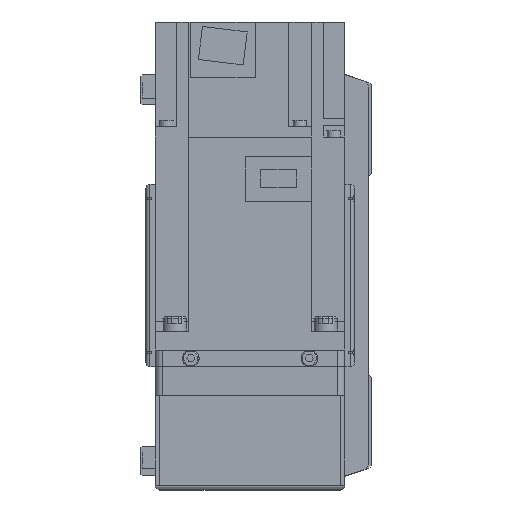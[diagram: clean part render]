
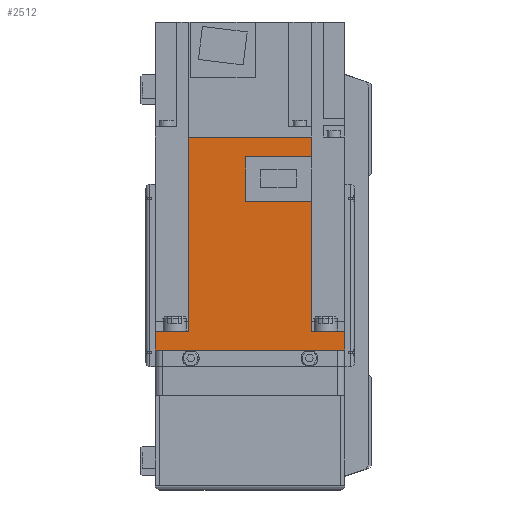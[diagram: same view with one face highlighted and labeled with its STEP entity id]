
A CAD part, left-side view. The second image highlights one B-rep face of the part: STEP entity #2512.
In plain terms, the highlighted planar face has unit normal (-1, 0, 0) as drawn and (1, 0, 0) by its records, which use the part's own axes.
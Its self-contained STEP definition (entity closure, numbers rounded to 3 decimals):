
#2512 = ADVANCED_FACE( '', ( #5575 ), #5576, .F. );
#5575 = FACE_OUTER_BOUND( '', #9131, .T. );
#5576 = PLANE( '', #9132 );
#9131 = EDGE_LOOP( '', ( #16227, #16228, #16229, #16230, #16231, #16232, #16233, #16234, #16235, #16236, #16237, #16238 ) );
#9132 = AXIS2_PLACEMENT_3D( '', #16239, #16240, #16241 );
#16227 = ORIENTED_EDGE( '', *, *, #22859, .F. );
#16228 = ORIENTED_EDGE( '', *, *, #21079, .F. );
#16229 = ORIENTED_EDGE( '', *, *, #22860, .F. );
#16230 = ORIENTED_EDGE( '', *, *, #22861, .T. );
#16231 = ORIENTED_EDGE( '', *, *, #22862, .F. );
#16232 = ORIENTED_EDGE( '', *, *, #21720, .T. );
#16233 = ORIENTED_EDGE( '', *, *, #22863, .T. );
#16234 = ORIENTED_EDGE( '', *, *, #22864, .F. );
#16235 = ORIENTED_EDGE( '', *, *, #20955, .F. );
#16236 = ORIENTED_EDGE( '', *, *, #21081, .F. );
#16237 = ORIENTED_EDGE( '', *, *, #22865, .F. );
#16238 = ORIENTED_EDGE( '', *, *, #21879, .F. );
#16239 = CARTESIAN_POINT( '', ( 40., 89.8, 40. ) );
#16240 = DIRECTION( '', ( -1., 0., 0. ) );
#16241 = DIRECTION( '', ( 0., 0., 1. ) );
#20955 = EDGE_CURVE( '', #25333, #25334, #25335, .T. );
#21079 = EDGE_CURVE( '', #25538, #25540, #25541, .T. );
#21081 = EDGE_CURVE( '', #25542, #25333, #25544, .T. );
#21720 = EDGE_CURVE( '', #26557, #26555, #26558, .T. );
#21879 = EDGE_CURVE( '', #26793, #26794, #26795, .T. );
#22859 = EDGE_CURVE( '', #25540, #26793, #28199, .T. );
#22860 = EDGE_CURVE( '', #28200, #25538, #28201, .T. );
#22861 = EDGE_CURVE( '', #28200, #28202, #28203, .T. );
#22862 = EDGE_CURVE( '', #26557, #28202, #28204, .T. );
#22863 = EDGE_CURVE( '', #26555, #28205, #28206, .T. );
#22864 = EDGE_CURVE( '', #25334, #28205, #28207, .T. );
#22865 = EDGE_CURVE( '', #26794, #25542, #28208, .T. );
#25333 = VERTEX_POINT( '', #31837 );
#25334 = VERTEX_POINT( '', #31838 );
#25335 = LINE( '', #31839, #31840 );
#25538 = VERTEX_POINT( '', #32183 );
#25540 = VERTEX_POINT( '', #32186 );
#25541 = LINE( '', #32187, #32188 );
#25542 = VERTEX_POINT( '', #32189 );
#25544 = LINE( '', #32192, #32193 );
#26555 = VERTEX_POINT( '', #33731 );
#26557 = VERTEX_POINT( '', #33734 );
#26558 = LINE( '', #33735, #33736 );
#26793 = VERTEX_POINT( '', #34078 );
#26794 = VERTEX_POINT( '', #34079 );
#26795 = LINE( '', #34080, #34081 );
#28199 = LINE( '', #36183, #36184 );
#28200 = VERTEX_POINT( '', #36185 );
#28201 = LINE( '', #36186, #36187 );
#28202 = VERTEX_POINT( '', #36188 );
#28203 = LINE( '', #36189, #36190 );
#28204 = LINE( '', #36191, #36192 );
#28205 = VERTEX_POINT( '', #36193 );
#28206 = LINE( '', #36194, #36195 );
#28207 = LINE( '', #36196, #36197 );
#28208 = LINE( '', #36198, #36199 );
#31837 = CARTESIAN_POINT( '', ( 40., 8., -25.95 ) );
#31838 = CARTESIAN_POINT( '', ( 40., 8., -40. ) );
#31839 = CARTESIAN_POINT( '', ( 40., 8., 40. ) );
#31840 = VECTOR( '', #38794, 1000. );
#32183 = CARTESIAN_POINT( '', ( 40., 89.8, -25.95 ) );
#32186 = CARTESIAN_POINT( '', ( 40., 81.4, -25.95 ) );
#32187 = CARTESIAN_POINT( '', ( 40., 158., -25.95 ) );
#32188 = VECTOR( '', #38951, 1000. );
#32189 = CARTESIAN_POINT( '', ( 40., 62.8, -25.95 ) );
#32192 = CARTESIAN_POINT( '', ( 40., 158., -25.95 ) );
#32193 = VECTOR( '', #38953, 1000. );
#33731 = CARTESIAN_POINT( '', ( 40., 0., 40. ) );
#33734 = CARTESIAN_POINT( '', ( 40., 8., 40. ) );
#33735 = CARTESIAN_POINT( '', ( 40., 89.8, 40. ) );
#33736 = VECTOR( '', #39750, 1000. );
#34078 = CARTESIAN_POINT( '', ( 40., 81.4, 1.8 ) );
#34079 = CARTESIAN_POINT( '', ( 40., 62.8, 1.8 ) );
#34080 = CARTESIAN_POINT( '', ( 40., 81.4, 1.8 ) );
#34081 = VECTOR( '', #39932, 1000. );
#36183 = CARTESIAN_POINT( '', ( 40., 81.4, -26. ) );
#36184 = VECTOR( '', #41078, 1000. );
#36185 = CARTESIAN_POINT( '', ( 40., 89.8, 25.95 ) );
#36186 = CARTESIAN_POINT( '', ( 40., 89.8, 40. ) );
#36187 = VECTOR( '', #41079, 1000. );
#36188 = CARTESIAN_POINT( '', ( 40., 8., 25.95 ) );
#36189 = CARTESIAN_POINT( '', ( 40., 158., 25.95 ) );
#36190 = VECTOR( '', #41080, 1000. );
#36191 = CARTESIAN_POINT( '', ( 40., 8., 40. ) );
#36192 = VECTOR( '', #41081, 1000. );
#36193 = CARTESIAN_POINT( '', ( 40., 0., -40. ) );
#36194 = CARTESIAN_POINT( '', ( 40., 0., 40. ) );
#36195 = VECTOR( '', #41082, 1000. );
#36196 = CARTESIAN_POINT( '', ( 40., 89.8, -40. ) );
#36197 = VECTOR( '', #41083, 1000. );
#36198 = CARTESIAN_POINT( '', ( 40., 62.8, 1.8 ) );
#36199 = VECTOR( '', #41084, 1000. );
#38794 = DIRECTION( '', ( 0., 0., -1. ) );
#38951 = DIRECTION( '', ( 0., -1., 0. ) );
#38953 = DIRECTION( '', ( 0., -1., 0. ) );
#39750 = DIRECTION( '', ( 0., -1., 0. ) );
#39932 = DIRECTION( '', ( 0., -1., 0. ) );
#41078 = DIRECTION( '', ( 0., 0., 1. ) );
#41079 = DIRECTION( '', ( 0., 0., -1. ) );
#41080 = DIRECTION( '', ( 0., -1., 0. ) );
#41081 = DIRECTION( '', ( 0., 0., -1. ) );
#41082 = DIRECTION( '', ( 0., 0., -1. ) );
#41083 = DIRECTION( '', ( 0., -1., 0. ) );
#41084 = DIRECTION( '', ( 0., 0., -1. ) );
